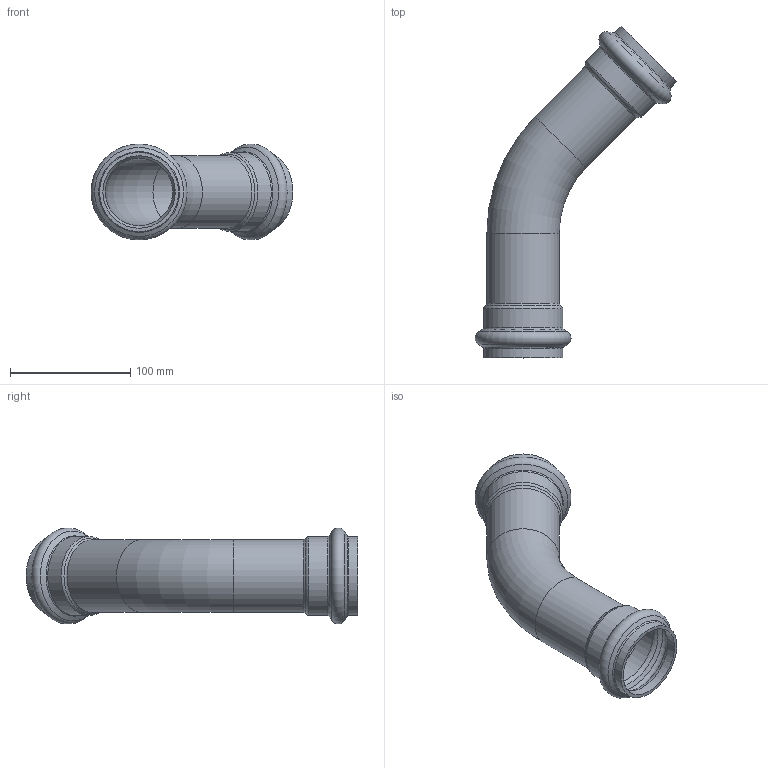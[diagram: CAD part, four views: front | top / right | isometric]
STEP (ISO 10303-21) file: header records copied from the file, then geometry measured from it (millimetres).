
FILE_DESCRIPTION(/* description */ ('VIC 45 DEG ELBOW STYLE P591 (P X P)','CAx-IF Rec.Pracs.---Representation and Presentation of Product Manufacturing Information (PMI)---4.0---2014-10-13'),/* implementation_level */ '2;1');
FILE_NAME(/* name */ 'C:\Users\Vjadhav\AppData\Roaming\Autodesk\ApplicationPlugins\Back Up\Victaulic_SS-Vic-Press-TP 304_Elbow 45 Deg_Style P591 (VP)\Victaulic_SS-Vic-Press-TP 304_Elbow 45 Deg_Style P591 (VP)_2 (50).stp',/* time_stamp */ '2020-08-12T16:12:59+06:00',/* author */ ('cgray'),/* organization */ ('Victaulic'),/* preprocessor_version */ 'ST-DEVELOPER v17.2',/* originating_system */ 'Autodesk Inventor 2019',/* authorisation */ '');
FILE_SCHEMA (('AP242_MANAGED_MODEL_BASED_3D_ENGINEERING_MIM_LF { 1 0 10303 442 1 1 4 }'));
Length unit declared in the file: inch
Products named in the file (1): P591-02.0
Bounding box: 168.14 x 276.51 x 79.93 mm (x, y, z)
Volume: 136581.2 mm3; surface area: 118210.5 mm2
Topology: 1 solids, 1 shells, 42 faces, 150 edges, 110 vertices
Faces by surface type: torus 18, cylinder 12, cone 10, plane 2
Full cylindrical faces by diameter (mm): 56.109 x2, 60.325 x6, 65.862 x4
Entity records: 1920 total; most frequent: DIRECTION 390, CARTESIAN_POINT 320, ORIENTED_EDGE 300, AXIS2_PLACEMENT_3D 184, EDGE_CURVE 150, CIRCLE 128, VERTEX_POINT 110, EDGE_LOOP 44
